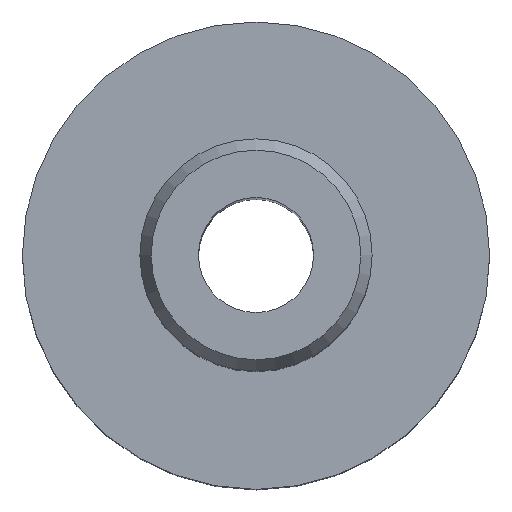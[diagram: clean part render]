
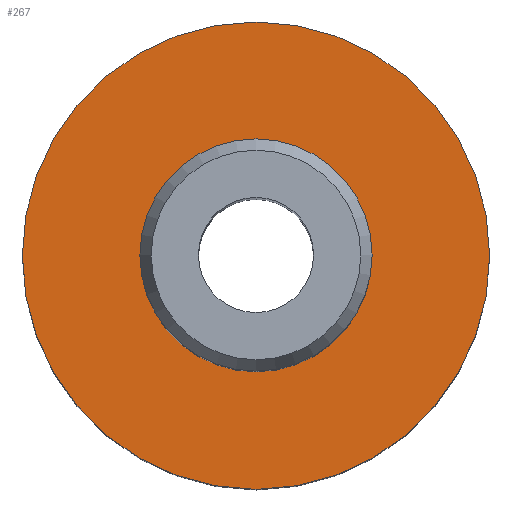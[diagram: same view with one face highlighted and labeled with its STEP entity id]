
A CAD part, top view. The second image highlights one B-rep face of the part: STEP entity #267.
In plain terms, the highlighted planar face has unit normal (0, 0, 1).
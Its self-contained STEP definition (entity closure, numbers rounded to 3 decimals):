
#189=CARTESIAN_POINT('',(1.18,0.,7.77));
#190=VERTEX_POINT('',#189);
#191=CARTESIAN_POINT('',(0.0,0.0,7.77));
#192=DIRECTION('',(0.0,0.0,-1.0));
#193=DIRECTION('',(-1.0,0.0,0.0));
#194=AXIS2_PLACEMENT_3D('',#191,#192,#193);
#195=CIRCLE('',#194,1.18);
#196=EDGE_CURVE('',#190,#190,#195,.T.);
#241=CARTESIAN_POINT('',(2.375,0.,7.77));
#242=VERTEX_POINT('',#241);
#243=CARTESIAN_POINT('',(0.0,0.0,7.77));
#244=DIRECTION('',(0.0,0.0,-1.0));
#245=DIRECTION('',(-1.0,0.0,0.0));
#246=AXIS2_PLACEMENT_3D('',#243,#244,#245);
#247=CIRCLE('',#246,2.375);
#248=EDGE_CURVE('',#242,#242,#247,.T.);
#256=CARTESIAN_POINT('',(0.0,0.0,7.77));
#257=DIRECTION('',(0.0,0.0,-1.0));
#258=DIRECTION('',(-1.0,0.0,0.0));
#259=AXIS2_PLACEMENT_3D('',#256,#257,#258);
#260=PLANE('',#259);
#261=ORIENTED_EDGE('',*,*,#248,.F.);
#262=EDGE_LOOP('',(#261));
#263=FACE_OUTER_BOUND('',#262,.T.);
#264=ORIENTED_EDGE('',*,*,#196,.T.);
#265=EDGE_LOOP('',(#264));
#266=FACE_BOUND('',#265,.T.);
#267=ADVANCED_FACE('',(#263,#266),#260,.F.);
